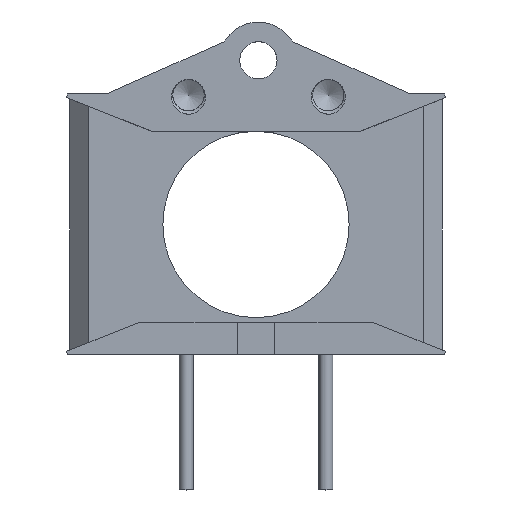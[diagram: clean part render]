
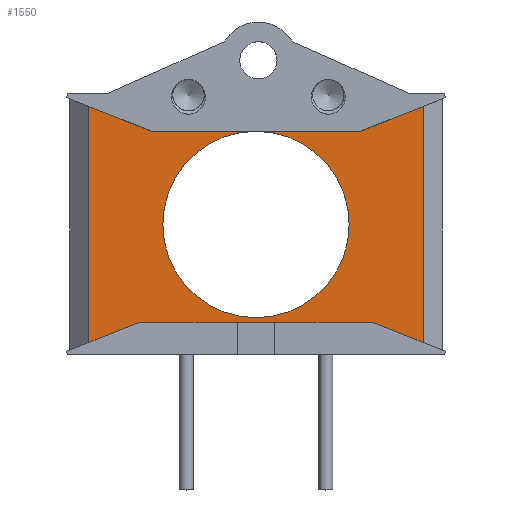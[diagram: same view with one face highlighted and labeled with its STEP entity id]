
A CAD part, top view. The second image highlights one B-rep face of the part: STEP entity #1550.
In plain terms, the highlighted planar face has unit normal (0, 0, 1).
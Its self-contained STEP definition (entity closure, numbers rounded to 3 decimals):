
#47=PLANE('',#1670);
#130=FACE_OUTER_BOUND('',#216,.T.);
#216=EDGE_LOOP('',(#1290,#1291,#1292,#1293,#1294,#1295,#1296,#1297,#1298,
#1299,#1300));
#274=CIRCLE('',#1671,20.);
#275=CIRCLE('',#1672,20.);
#424=LINE('',#5070,#543);
#426=LINE('',#5078,#545);
#427=LINE('',#5080,#546);
#428=LINE('',#5082,#547);
#429=LINE('',#5083,#548);
#430=LINE('',#5085,#549);
#431=LINE('',#5087,#550);
#432=LINE('',#5089,#551);
#433=LINE('',#5090,#552);
#543=VECTOR('',#1931,10.);
#545=VECTOR('',#1939,10.);
#546=VECTOR('',#1940,10.);
#547=VECTOR('',#1941,10.);
#548=VECTOR('',#1942,10.);
#549=VECTOR('',#1943,10.);
#550=VECTOR('',#1944,10.);
#551=VECTOR('',#1945,10.);
#552=VECTOR('',#1946,10.);
#713=VERTEX_POINT('',#5067);
#714=VERTEX_POINT('',#5069);
#715=VERTEX_POINT('',#5073);
#716=VERTEX_POINT('',#5074);
#717=VERTEX_POINT('',#5077);
#718=VERTEX_POINT('',#5079);
#719=VERTEX_POINT('',#5081);
#720=VERTEX_POINT('',#5084);
#721=VERTEX_POINT('',#5086);
#722=VERTEX_POINT('',#5088);
#919=EDGE_CURVE('',#714,#713,#424,.T.);
#921=EDGE_CURVE('',#715,#716,#274,.T.);
#922=EDGE_CURVE('',#716,#715,#275,.T.);
#923=EDGE_CURVE('',#715,#717,#426,.T.);
#924=EDGE_CURVE('',#717,#718,#427,.T.);
#925=EDGE_CURVE('',#719,#718,#428,.T.);
#926=EDGE_CURVE('',#719,#714,#429,.T.);
#927=EDGE_CURVE('',#713,#720,#430,.T.);
#928=EDGE_CURVE('',#721,#720,#431,.T.);
#929=EDGE_CURVE('',#721,#722,#432,.T.);
#930=EDGE_CURVE('',#722,#715,#433,.T.);
#1290=ORIENTED_EDGE('',*,*,#921,.T.);
#1291=ORIENTED_EDGE('',*,*,#922,.T.);
#1292=ORIENTED_EDGE('',*,*,#923,.T.);
#1293=ORIENTED_EDGE('',*,*,#924,.T.);
#1294=ORIENTED_EDGE('',*,*,#925,.F.);
#1295=ORIENTED_EDGE('',*,*,#926,.T.);
#1296=ORIENTED_EDGE('',*,*,#919,.T.);
#1297=ORIENTED_EDGE('',*,*,#927,.T.);
#1298=ORIENTED_EDGE('',*,*,#928,.F.);
#1299=ORIENTED_EDGE('',*,*,#929,.T.);
#1300=ORIENTED_EDGE('',*,*,#930,.T.);
#1550=ADVANCED_FACE('',(#130),#47,.T.);
#1670=AXIS2_PLACEMENT_3D('',#5072,#1933,#1934);
#1671=AXIS2_PLACEMENT_3D('',#5075,#1935,#1936);
#1672=AXIS2_PLACEMENT_3D('',#5076,#1937,#1938);
#1931=DIRECTION('',(1.,0.,0.));
#1933=DIRECTION('center_axis',(0.,0.,1.));
#1934=DIRECTION('ref_axis',(1.,0.,0.));
#1935=DIRECTION('center_axis',(0.,0.,-1.));
#1936=DIRECTION('ref_axis',(-1.,0.,0.));
#1937=DIRECTION('center_axis',(0.,0.,-1.));
#1938=DIRECTION('ref_axis',(-1.,0.,0.));
#1939=DIRECTION('',(-1.,0.,0.));
#1940=DIRECTION('',(-0.928,0.371,0.));
#1941=DIRECTION('',(0.,1.,0.));
#1942=DIRECTION('',(0.928,0.371,0.));
#1943=DIRECTION('',(0.928,-0.371,0.));
#1944=DIRECTION('',(0.,-1.,0.));
#1945=DIRECTION('',(-0.928,-0.371,0.));
#1946=DIRECTION('',(-1.,0.,0.));
#5067=CARTESIAN_POINT('',(65.,-42.,4.));
#5069=CARTESIAN_POINT('',(15.,-42.,4.));
#5070=CARTESIAN_POINT('',(0.,-42.,4.));
#5072=CARTESIAN_POINT('Origin',(40.,-21.,4.));
#5073=CARTESIAN_POINT('',(40.,-1.,4.));
#5074=CARTESIAN_POINT('',(60.,-21.,4.));
#5075=CARTESIAN_POINT('Origin',(40.,-21.,4.));
#5076=CARTESIAN_POINT('Origin',(40.,-21.,4.));
#5077=CARTESIAN_POINT('',(17.5,-1.,4.));
#5078=CARTESIAN_POINT('',(27.5,-1.,4.));
#5079=CARTESIAN_POINT('',(4.,4.4,4.));
#5080=CARTESIAN_POINT('',(0.,6.,4.));
#5081=CARTESIAN_POINT('',(4.,-46.4,4.));
#5082=CARTESIAN_POINT('',(4.,-10.5,4.));
#5083=CARTESIAN_POINT('',(0.,-48.,4.));
#5084=CARTESIAN_POINT('',(76.,-46.4,4.));
#5085=CARTESIAN_POINT('',(65.,-42.,4.));
#5086=CARTESIAN_POINT('',(76.,4.4,4.));
#5087=CARTESIAN_POINT('',(76.,-31.5,4.));
#5088=CARTESIAN_POINT('',(62.5,-1.,4.));
#5089=CARTESIAN_POINT('',(65.,0.,4.));
#5090=CARTESIAN_POINT('',(27.5,-1.,4.));
